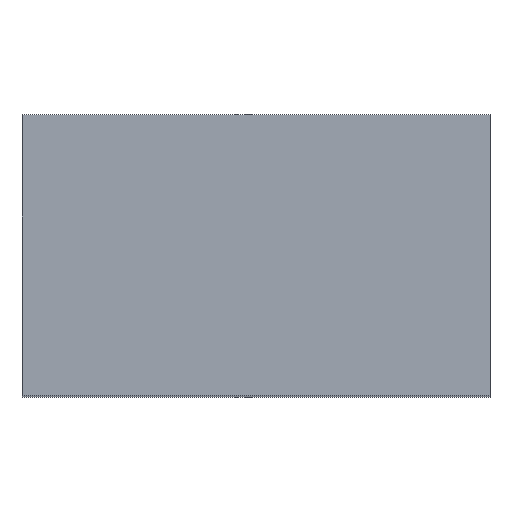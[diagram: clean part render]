
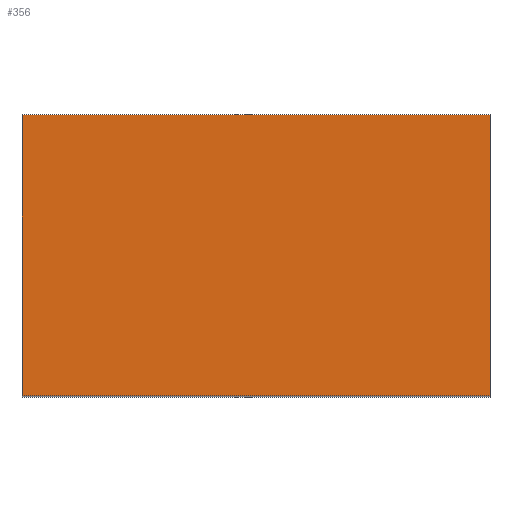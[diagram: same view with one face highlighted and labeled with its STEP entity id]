
A CAD part, top view. The second image highlights one B-rep face of the part: STEP entity #356.
In plain terms, the highlighted planar face has unit normal (0, 0, 1).
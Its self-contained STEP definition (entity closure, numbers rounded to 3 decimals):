
#42 = VERTEX_POINT('',#43);
#43 = CARTESIAN_POINT('',(-2.75,-1.65,6.));
#50 = PLANE('',#51);
#51 = AXIS2_PLACEMENT_3D('',#52,#53,#54);
#52 = CARTESIAN_POINT('',(-2.75,-1.65,-6.));
#53 = DIRECTION('',(1.,0.,-0.));
#54 = DIRECTION('',(0.,0.,1.));
#62 = PLANE('',#63);
#63 = AXIS2_PLACEMENT_3D('',#64,#65,#66);
#64 = CARTESIAN_POINT('',(-2.75,-1.65,-6.));
#65 = DIRECTION('',(-0.,1.,0.));
#66 = DIRECTION('',(0.,0.,1.));
#103 = VERTEX_POINT('',#104);
#104 = CARTESIAN_POINT('',(-2.75,1.65,6.));
#118 = PLANE('',#119);
#119 = AXIS2_PLACEMENT_3D('',#120,#121,#122);
#120 = CARTESIAN_POINT('',(-2.75,1.65,-6.));
#121 = DIRECTION('',(-0.,1.,0.));
#122 = DIRECTION('',(0.,0.,1.));
#130 = EDGE_CURVE('',#42,#103,#131,.T.);
#131 = SURFACE_CURVE('',#132,(#136,#143),.PCURVE_S1.);
#132 = LINE('',#133,#134);
#133 = CARTESIAN_POINT('',(-2.75,-1.65,6.));
#134 = VECTOR('',#135,1.);
#135 = DIRECTION('',(-0.,1.,0.));
#136 = PCURVE('',#50,#137);
#137 = DEFINITIONAL_REPRESENTATION('',(#138),#142);
#138 = LINE('',#139,#140);
#139 = CARTESIAN_POINT('',(12.,0.));
#140 = VECTOR('',#141,1.);
#141 = DIRECTION('',(0.,-1.));
#142 = ( GEOMETRIC_REPRESENTATION_CONTEXT(2) 
PARAMETRIC_REPRESENTATION_CONTEXT() REPRESENTATION_CONTEXT('2D SPACE',''
  ) );
#143 = PCURVE('',#144,#149);
#144 = PLANE('',#145);
#145 = AXIS2_PLACEMENT_3D('',#146,#147,#148);
#146 = CARTESIAN_POINT('',(-2.75,-1.65,6.));
#147 = DIRECTION('',(0.,0.,1.));
#148 = DIRECTION('',(1.,0.,-0.));
#149 = DEFINITIONAL_REPRESENTATION('',(#150),#154);
#150 = LINE('',#151,#152);
#151 = CARTESIAN_POINT('',(0.,0.));
#152 = VECTOR('',#153,1.);
#153 = DIRECTION('',(0.,1.));
#154 = ( GEOMETRIC_REPRESENTATION_CONTEXT(2) 
PARAMETRIC_REPRESENTATION_CONTEXT() REPRESENTATION_CONTEXT('2D SPACE',''
  ) );
#162 = VERTEX_POINT('',#163);
#163 = CARTESIAN_POINT('',(2.75,-1.65,6.));
#170 = PLANE('',#171);
#171 = AXIS2_PLACEMENT_3D('',#172,#173,#174);
#172 = CARTESIAN_POINT('',(2.75,-1.65,-6.));
#173 = DIRECTION('',(1.,0.,-0.));
#174 = DIRECTION('',(0.,0.,1.));
#213 = VERTEX_POINT('',#214);
#214 = CARTESIAN_POINT('',(2.75,1.65,6.));
#235 = EDGE_CURVE('',#162,#213,#236,.T.);
#236 = SURFACE_CURVE('',#237,(#241,#248),.PCURVE_S1.);
#237 = LINE('',#238,#239);
#238 = CARTESIAN_POINT('',(2.75,-1.65,6.));
#239 = VECTOR('',#240,1.);
#240 = DIRECTION('',(-0.,1.,0.));
#241 = PCURVE('',#170,#242);
#242 = DEFINITIONAL_REPRESENTATION('',(#243),#247);
#243 = LINE('',#244,#245);
#244 = CARTESIAN_POINT('',(12.,0.));
#245 = VECTOR('',#246,1.);
#246 = DIRECTION('',(0.,-1.));
#247 = ( GEOMETRIC_REPRESENTATION_CONTEXT(2) 
PARAMETRIC_REPRESENTATION_CONTEXT() REPRESENTATION_CONTEXT('2D SPACE',''
  ) );
#248 = PCURVE('',#144,#249);
#249 = DEFINITIONAL_REPRESENTATION('',(#250),#254);
#250 = LINE('',#251,#252);
#251 = CARTESIAN_POINT('',(5.5,0.));
#252 = VECTOR('',#253,1.);
#253 = DIRECTION('',(0.,1.));
#254 = ( GEOMETRIC_REPRESENTATION_CONTEXT(2) 
PARAMETRIC_REPRESENTATION_CONTEXT() REPRESENTATION_CONTEXT('2D SPACE',''
  ) );
#281 = EDGE_CURVE('',#42,#162,#282,.T.);
#282 = SURFACE_CURVE('',#283,(#287,#294),.PCURVE_S1.);
#283 = LINE('',#284,#285);
#284 = CARTESIAN_POINT('',(-2.75,-1.65,6.));
#285 = VECTOR('',#286,1.);
#286 = DIRECTION('',(1.,0.,-0.));
#287 = PCURVE('',#62,#288);
#288 = DEFINITIONAL_REPRESENTATION('',(#289),#293);
#289 = LINE('',#290,#291);
#290 = CARTESIAN_POINT('',(12.,0.));
#291 = VECTOR('',#292,1.);
#292 = DIRECTION('',(0.,1.));
#293 = ( GEOMETRIC_REPRESENTATION_CONTEXT(2) 
PARAMETRIC_REPRESENTATION_CONTEXT() REPRESENTATION_CONTEXT('2D SPACE',''
  ) );
#294 = PCURVE('',#144,#295);
#295 = DEFINITIONAL_REPRESENTATION('',(#296),#300);
#296 = LINE('',#297,#298);
#297 = CARTESIAN_POINT('',(0.,0.));
#298 = VECTOR('',#299,1.);
#299 = DIRECTION('',(1.,0.));
#300 = ( GEOMETRIC_REPRESENTATION_CONTEXT(2) 
PARAMETRIC_REPRESENTATION_CONTEXT() REPRESENTATION_CONTEXT('2D SPACE',''
  ) );
#328 = EDGE_CURVE('',#103,#213,#329,.T.);
#329 = SURFACE_CURVE('',#330,(#334,#341),.PCURVE_S1.);
#330 = LINE('',#331,#332);
#331 = CARTESIAN_POINT('',(-2.75,1.65,6.));
#332 = VECTOR('',#333,1.);
#333 = DIRECTION('',(1.,0.,-0.));
#334 = PCURVE('',#118,#335);
#335 = DEFINITIONAL_REPRESENTATION('',(#336),#340);
#336 = LINE('',#337,#338);
#337 = CARTESIAN_POINT('',(12.,0.));
#338 = VECTOR('',#339,1.);
#339 = DIRECTION('',(0.,1.));
#340 = ( GEOMETRIC_REPRESENTATION_CONTEXT(2) 
PARAMETRIC_REPRESENTATION_CONTEXT() REPRESENTATION_CONTEXT('2D SPACE',''
  ) );
#341 = PCURVE('',#144,#342);
#342 = DEFINITIONAL_REPRESENTATION('',(#343),#347);
#343 = LINE('',#344,#345);
#344 = CARTESIAN_POINT('',(0.,3.3));
#345 = VECTOR('',#346,1.);
#346 = DIRECTION('',(1.,0.));
#347 = ( GEOMETRIC_REPRESENTATION_CONTEXT(2) 
PARAMETRIC_REPRESENTATION_CONTEXT() REPRESENTATION_CONTEXT('2D SPACE',''
  ) );
#356 = ADVANCED_FACE('',(#357),#144,.T.);
#357 = FACE_BOUND('',#358,.T.);
#358 = EDGE_LOOP('',(#359,#360,#361,#362));
#359 = ORIENTED_EDGE('',*,*,#130,.F.);
#360 = ORIENTED_EDGE('',*,*,#281,.T.);
#361 = ORIENTED_EDGE('',*,*,#235,.T.);
#362 = ORIENTED_EDGE('',*,*,#328,.F.);
